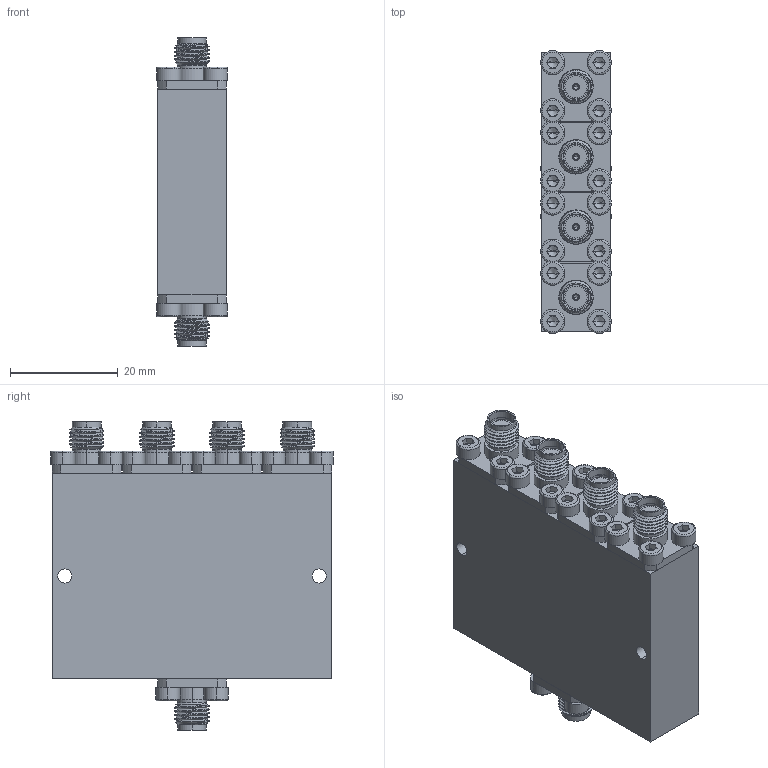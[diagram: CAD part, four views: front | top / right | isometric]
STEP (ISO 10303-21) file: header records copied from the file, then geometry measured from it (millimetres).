
FILE_DESCRIPTION (( 'STEP AP214' ), '1' );
FILE_NAME ('X02013-GW01_a_C3.STEP', '2023-07-19T05:58:27', ( 'Microsoft' ), ( 'Microsoft' ), 'SwSTEP 2.0', 'SolidWorks 2020', '' );
FILE_SCHEMA (( 'AUTOMOTIVE_DESIGN' ));
Length unit declared in the file: millimetre
Products named in the file (14): 秝芛12.7X12.7; X05006-AP04-01_A_CN; X02013-GW01_A_C3; X05006-AP06-01_A_CN; X05006-AP03-01_A_CN; X02013-GW01_a_C3; hexagon socket head cap screws gb_GB_FASTENER_SCREWS_HSHCS M2.5X4-N; X05006-AP05-01_A_CN; X05006-AP02-01_A_CN; X05006-AP01-02_A_CN
Assembly tree (56 placements, depth 3):
  X02013-GW01_a_C3
    X02013-GW01_A_C3
    秝芛12.7X12.7
      X05006-AP01-02_A_CN
      X05006-AP02-01_A_CN
      X05006-AP03-01_A_CN
      X05006-AP04-01_A_CN
      X05006-AP05-01_A_CN
      X05006-AP06-01_A_CN
      hexagon socket head cap screws gb_GB_FASTENER_SCREWS_HSHCS M2.5X4-N  x4
    秝芛12.7X12.7
      X05006-AP01-02_A_CN
      X05006-AP02-01_A_CN
      X05006-AP03-01_A_CN
      X05006-AP04-01_A_CN
      X05006-AP05-01_A_CN
      X05006-AP06-01_A_CN
      hexagon socket head cap screws gb_GB_FASTENER_SCREWS_HSHCS M2.5X4-N  x4
    秝芛12.7X12.7
      X05006-AP01-02_A_CN
      X05006-AP02-01_A_CN
      X05006-AP03-01_A_CN
      X05006-AP04-01_A_CN
      X05006-AP05-01_A_CN
      X05006-AP06-01_A_CN
      hexagon socket head cap screws gb_GB_FASTENER_SCREWS_HSHCS M2.5X4-N  x4
    秝芛12.7X12.7
      X05006-AP01-02_A_CN
      X05006-AP02-01_A_CN
      X05006-AP03-01_A_CN
      X05006-AP04-01_A_CN
      X05006-AP05-01_A_CN
      X05006-AP06-01_A_CN
      hexagon socket head cap screws gb_GB_FASTENER_SCREWS_HSHCS M2.5X4-N  x4
    秝芛12.7X12.7
      X05006-AP01-02_A_CN
      X05006-AP02-01_A_CN
      X05006-AP03-01_A_CN
      X05006-AP04-01_A_CN
      X05006-AP05-01_A_CN
      X05006-AP06-01_A_CN
      hexagon socket head cap screws gb_GB_FASTENER_SCREWS_HSHCS M2.5X4-N  x4
Bounding box: 13.1 x 52.42 x 57.1 mm (x, y, z)
Volume: 27908.6 mm3; surface area: 13475.4 mm2
Topology: 51 solids, 51 shells, 1440 faces, 3374 edges, 2101 vertices
Faces by surface type: plane 621, cylinder 534, cone 235, torus 40, bspline 10
Entity records: 7900 total; most frequent: CARTESIAN_POINT 1854, DIRECTION 1280, ORIENTED_EDGE 1040, AXIS2_PLACEMENT_3D 522, EDGE_CURVE 520, VERTEX_POINT 334, EDGE_LOOP 262, CIRCLE 239
